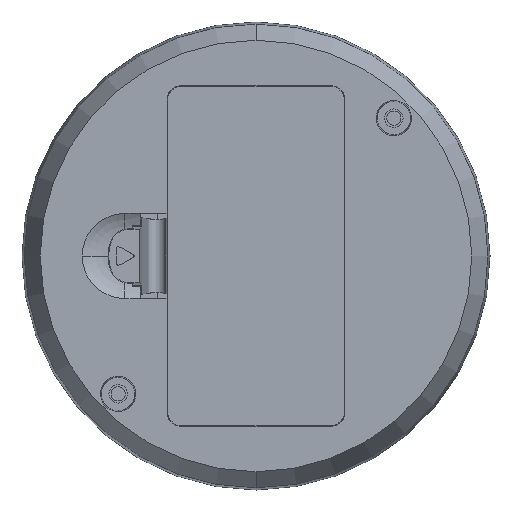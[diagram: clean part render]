
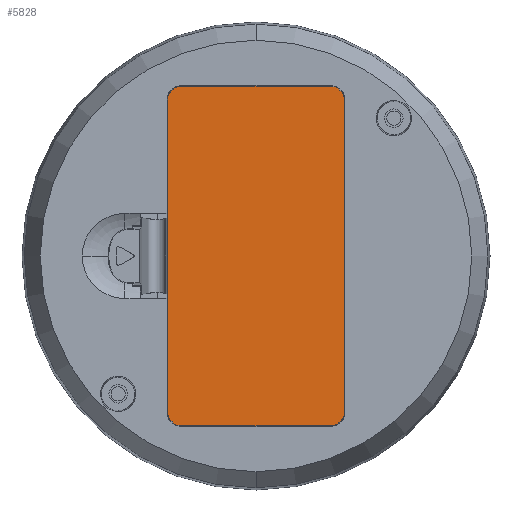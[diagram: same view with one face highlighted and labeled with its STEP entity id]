
A CAD part, front view. The second image highlights one B-rep face of the part: STEP entity #5828.
In plain terms, the highlighted planar face has unit normal (0, -1, 0) as drawn and (0, 1, 0) by its records, which use the part's own axes.
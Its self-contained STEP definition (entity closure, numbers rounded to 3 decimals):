
#64 = EDGE_CURVE ( 'NONE', #1327, #130, #2081, .T. ) ;
#130 = VERTEX_POINT ( 'NONE', #2688 ) ;
#145 = EDGE_CURVE ( 'NONE', #7395, #713, #4094, .T. ) ;
#160 = CARTESIAN_POINT ( 'NONE',  ( 24., 0., 12.458 ) ) ;
#608 = EDGE_CURVE ( 'NONE', #4044, #4183, #8750, .T. ) ;
#713 = VERTEX_POINT ( 'NONE', #3174 ) ;
#727 = CARTESIAN_POINT ( 'NONE',  ( 23.958, 0., -11.63 ) ) ;
#735 = VECTOR ( 'NONE', #4569, 1000. ) ;
#794 =( BOUNDED_CURVE ( )  B_SPLINE_CURVE ( 3, ( #4397, #5142, #1996, #9904 ),
 .UNSPECIFIED., .F., .F. ) 
 B_SPLINE_CURVE_WITH_KNOTS ( ( 4, 4 ),
 ( 2.357, 3.926 ),
 .UNSPECIFIED. ) 
 CURVE ( )  GEOMETRIC_REPRESENTATION_ITEM ( )  RATIONAL_B_SPLINE_CURVE ( ( 1., 0.805, 0.805, 1. ) ) 
 REPRESENTATION_ITEM ( '' )  );
#928 =( BOUNDED_CURVE ( )  B_SPLINE_CURVE ( 3, ( #6646, #2539, #1758, #9115 ),
 .UNSPECIFIED., .F., .T. ) 
 B_SPLINE_CURVE_WITH_KNOTS ( ( 4, 4 ),
 ( 2.357, 3.926 ),
 .UNSPECIFIED. ) 
 CURVE ( )  GEOMETRIC_REPRESENTATION_ITEM ( )  RATIONAL_B_SPLINE_CURVE ( ( 1., 0.805, 0.805, 1. ) ) 
 REPRESENTATION_ITEM ( '' )  );
#1042 = DIRECTION ( 'NONE',  ( 1., 0., 0. ) ) ;
#1265 = ORIENTED_EDGE ( 'NONE', *, *, #1718, .T. ) ;
#1327 = VERTEX_POINT ( 'NONE', #1628 ) ;
#1407 = CARTESIAN_POINT ( 'NONE',  ( -23.958, 0., 10.459 ) ) ;
#1536 = CARTESIAN_POINT ( 'NONE',  ( 23.13, 0., 12.458 ) ) ;
#1628 = CARTESIAN_POINT ( 'NONE',  ( 23.958, 0., 10.459 ) ) ;
#1629 = CARTESIAN_POINT ( 'NONE',  ( 23.958, 0., -10.459 ) ) ;
#1718 = EDGE_CURVE ( 'NONE', #130, #10053, #9788, .T. ) ;
#1758 = CARTESIAN_POINT ( 'NONE',  ( -23.958, 0., -11.63 ) ) ;
#1840 = CARTESIAN_POINT ( 'NONE',  ( 23.958, 0., 12.5 ) ) ;
#1925 = ORIENTED_EDGE ( 'NONE', *, *, #2491, .T. ) ;
#1996 = CARTESIAN_POINT ( 'NONE',  ( -23.13, 0., 12.458 ) ) ;
#2064 = PLANE ( 'NONE',  #6214 ) ;
#2074 = CARTESIAN_POINT ( 'NONE',  ( -23.958, 0., -10.459 ) ) ;
#2081 = LINE ( 'NONE', #1840, #7496 ) ;
#2233 = CARTESIAN_POINT ( 'NONE',  ( 23.958, 0., 11.63 ) ) ;
#2491 = EDGE_CURVE ( 'NONE', #4183, #7395, #794, .T. ) ;
#2539 = CARTESIAN_POINT ( 'NONE',  ( -23.13, 0., -12.458 ) ) ;
#2582 = DIRECTION ( 'NONE',  ( 0., 0., -1. ) ) ;
#2688 = CARTESIAN_POINT ( 'NONE',  ( 23.958, 0., -10.459 ) ) ;
#3174 = CARTESIAN_POINT ( 'NONE',  ( 21.959, 0., 12.458 ) ) ;
#3186 = EDGE_CURVE ( 'NONE', #713, #1327, #7489, .T. ) ;
#3813 = CARTESIAN_POINT ( 'NONE',  ( 24., 0., 12.5 ) ) ;
#4044 = VERTEX_POINT ( 'NONE', #2074 ) ;
#4094 = LINE ( 'NONE', #160, #5735 ) ;
#4183 = VERTEX_POINT ( 'NONE', #1407 ) ;
#4397 = CARTESIAN_POINT ( 'NONE',  ( -23.958, 0., 10.459 ) ) ;
#4458 = DIRECTION ( 'NONE',  ( 0., 0., 1. ) ) ;
#4555 = DIRECTION ( 'NONE',  ( 0., 1., 0. ) ) ;
#4569 = DIRECTION ( 'NONE',  ( -1., 0., 0. ) ) ;
#4728 = CARTESIAN_POINT ( 'NONE',  ( 23.958, 0., 10.459 ) ) ;
#4756 = CARTESIAN_POINT ( 'NONE',  ( 23.13, 0., -12.458 ) ) ;
#5142 = CARTESIAN_POINT ( 'NONE',  ( -23.958, 0., 11.63 ) ) ;
#5411 = CARTESIAN_POINT ( 'NONE',  ( -23.958, 0., 12.5 ) ) ;
#5735 = VECTOR ( 'NONE', #1042, 1000. ) ;
#5828 = ADVANCED_FACE ( 'NONE', ( #6653 ), #2064, .T. ) ;
#5835 = CARTESIAN_POINT ( 'NONE',  ( 21.959, 0., -12.458 ) ) ;
#5845 = CARTESIAN_POINT ( 'NONE',  ( -21.959, 0., 12.458 ) ) ;
#6022 = CARTESIAN_POINT ( 'NONE',  ( -21.959, 0., -12.458 ) ) ;
#6214 = AXIS2_PLACEMENT_3D ( 'NONE', #3813, #4555, #4458 ) ;
#6357 = VECTOR ( 'NONE', #9471, 1000. ) ;
#6646 = CARTESIAN_POINT ( 'NONE',  ( -21.959, 0., -12.458 ) ) ;
#6653 = FACE_OUTER_BOUND ( 'NONE', #10055, .T. ) ;
#6819 = VERTEX_POINT ( 'NONE', #6022 ) ;
#6899 = EDGE_CURVE ( 'NONE', #10053, #6819, #9160, .T. ) ;
#6964 = CARTESIAN_POINT ( 'NONE',  ( 24., 0., -12.458 ) ) ;
#7066 = ORIENTED_EDGE ( 'NONE', *, *, #64, .T. ) ;
#7395 = VERTEX_POINT ( 'NONE', #5845 ) ;
#7483 = ORIENTED_EDGE ( 'NONE', *, *, #608, .T. ) ;
#7487 = CARTESIAN_POINT ( 'NONE',  ( 21.959, 0., -12.458 ) ) ;
#7489 =( BOUNDED_CURVE ( )  B_SPLINE_CURVE ( 3, ( #10346, #1536, #2233, #4728 ),
 .UNSPECIFIED., .F., .T. ) 
 B_SPLINE_CURVE_WITH_KNOTS ( ( 4, 4 ),
 ( 2.357, 3.926 ),
 .UNSPECIFIED. ) 
 CURVE ( )  GEOMETRIC_REPRESENTATION_ITEM ( )  RATIONAL_B_SPLINE_CURVE ( ( 1., 0.805, 0.805, 1. ) ) 
 REPRESENTATION_ITEM ( '' )  );
#7496 = VECTOR ( 'NONE', #2582, 1000. ) ;
#8402 = EDGE_CURVE ( 'NONE', #6819, #4044, #928, .T. ) ;
#8750 = LINE ( 'NONE', #5411, #6357 ) ;
#8847 = ORIENTED_EDGE ( 'NONE', *, *, #8402, .T. ) ;
#9114 = ORIENTED_EDGE ( 'NONE', *, *, #6899, .T. ) ;
#9115 = CARTESIAN_POINT ( 'NONE',  ( -23.958, 0., -10.459 ) ) ;
#9160 = LINE ( 'NONE', #6964, #735 ) ;
#9471 = DIRECTION ( 'NONE',  ( 0., 0., 1. ) ) ;
#9788 =( BOUNDED_CURVE ( )  B_SPLINE_CURVE ( 3, ( #1629, #727, #4756, #5835 ),
 .UNSPECIFIED., .F., .T. ) 
 B_SPLINE_CURVE_WITH_KNOTS ( ( 4, 4 ),
 ( 2.357, 3.926 ),
 .UNSPECIFIED. ) 
 CURVE ( )  GEOMETRIC_REPRESENTATION_ITEM ( )  RATIONAL_B_SPLINE_CURVE ( ( 1., 0.805, 0.805, 1. ) ) 
 REPRESENTATION_ITEM ( '' )  );
#9904 = CARTESIAN_POINT ( 'NONE',  ( -21.959, 0., 12.458 ) ) ;
#9928 = ORIENTED_EDGE ( 'NONE', *, *, #145, .T. ) ;
#10005 = ORIENTED_EDGE ( 'NONE', *, *, #3186, .T. ) ;
#10053 = VERTEX_POINT ( 'NONE', #7487 ) ;
#10055 = EDGE_LOOP ( 'NONE', ( #9928, #10005, #7066, #1265, #9114, #8847, #7483, #1925 ) ) ;
#10346 = CARTESIAN_POINT ( 'NONE',  ( 21.959, 0., 12.458 ) ) ;
